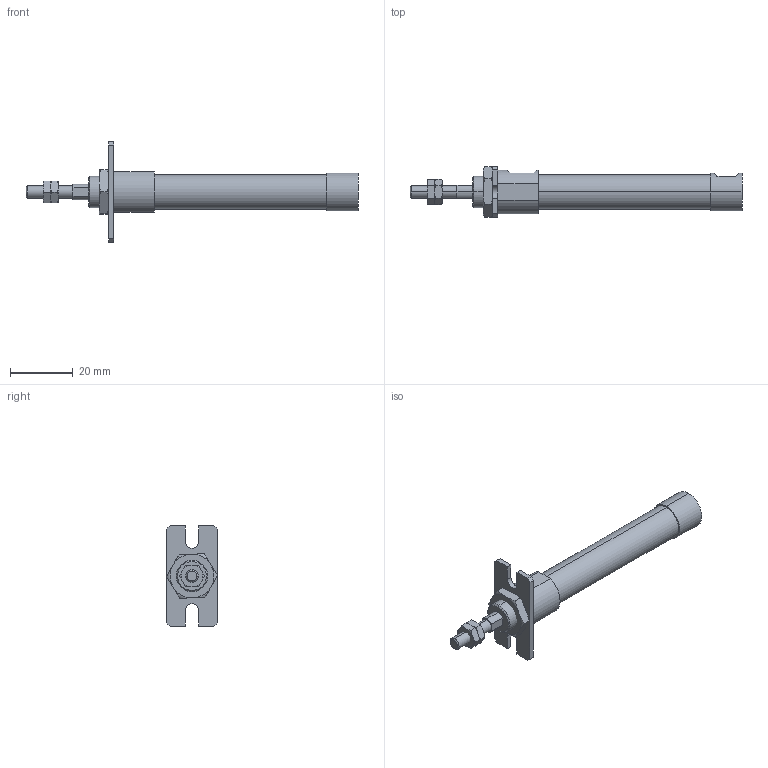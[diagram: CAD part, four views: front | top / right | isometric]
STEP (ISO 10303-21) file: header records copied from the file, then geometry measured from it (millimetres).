
FILE_DESCRIPTION (( 'STEP AP203' ), '1' );
FILE_NAME ('ZGU2-10-30-A.STEP', '2016-03-31T00:51:55', ( '' ), ( '' ), 'SwSTEP 2.0', 'SolidWorks 2014', '' );
FILE_SCHEMA (( 'CONFIG_CONTROL_DESIGN' ));
Length unit declared in the file: millimetre
Products named in the file (5): ZGU2-10-30; ZGU2-10-30-A; Z-10-A
Assembly tree (5 placements, depth 2):
  ZGU2-10-30-A
    ZGU2-10-30
    (unnamed)  x2
    (unnamed)
    Z-10-A
Bounding box: 106 x 16.16 x 32 mm (x, y, z)
Volume: 9965.2 mm3; surface area: 5570.6 mm2
Topology: 5 solids, 5 shells, 129 faces, 292 edges, 178 vertices
Faces by surface type: plane 57, torus 36, cylinder 28, cone 8
Entity records: 3817 total; most frequent: CARTESIAN_POINT 909, DIRECTION 498, ORIENTED_EDGE 480, EDGE_CURVE 240, AXIS2_PLACEMENT_3D 195, VERTEX_POINT 150, EDGE_LOOP 122, VECTOR 108
